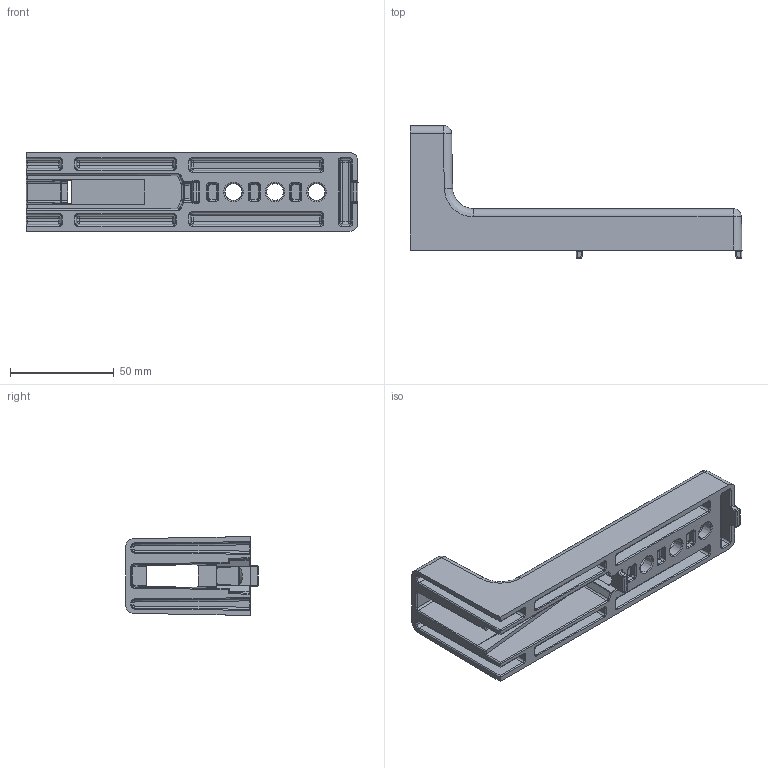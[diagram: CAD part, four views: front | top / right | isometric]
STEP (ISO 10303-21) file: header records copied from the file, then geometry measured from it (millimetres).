
FILE_DESCRIPTION(('STEP AP214'),'1');
FILE_NAME('fath_093b1601n10r.stp','2017-10-10T15:44:07',('TraceParts'),('TraceParts S.A.'),'Spatial InterOp 3D',' ',' ');
FILE_SCHEMA(('automotive_design'));
Length unit declared in the file: millimetre
Products named in the file (1): fath_093b1601n10r
Bounding box: 160.01 x 64 x 38 mm (x, y, z)
Volume: 73257.4 mm3; surface area: 41766.3 mm2
Topology: 1 solids, 1 shells, 432 faces, 1034 edges, 570 vertices
Faces by surface type: cylinder 198, plane 89, bspline 79, sphere 36, torus 20, cone 10
Entity records: 17029 total; most frequent: CARTESIAN_POINT 4542, ORIENTED_EDGE 1992, DIRECTION 1829, EDGE_CURVE 996, AXIS2_PLACEMENT_3D 691, VERTEX_POINT 570, LINE 447, VECTOR 447
